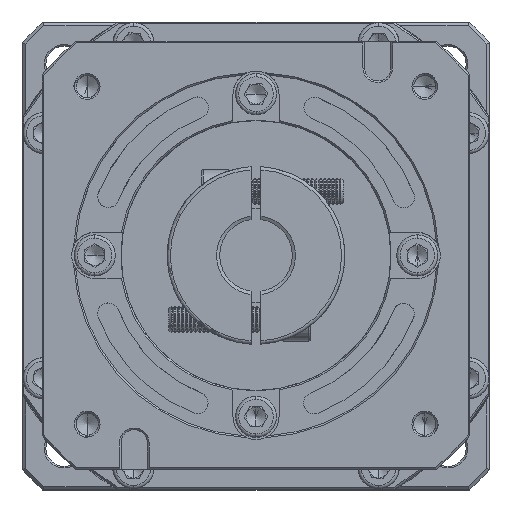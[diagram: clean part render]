
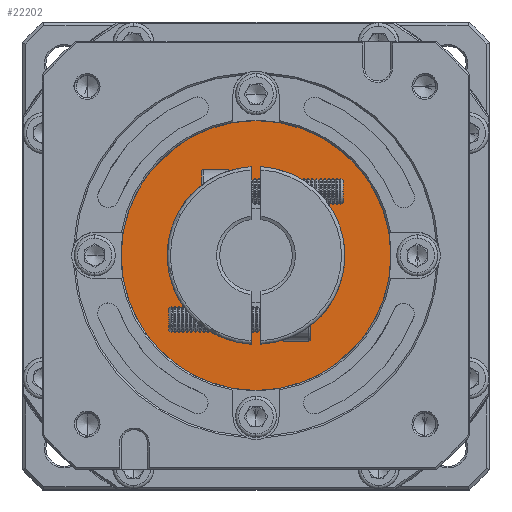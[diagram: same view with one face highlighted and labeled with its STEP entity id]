
A CAD part, top view. The second image highlights one B-rep face of the part: STEP entity #22202.
In plain terms, the highlighted planar face has unit normal (0, 0, 1).
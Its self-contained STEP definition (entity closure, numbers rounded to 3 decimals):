
#1001 = CIRCLE ( 'NONE', #155942, 41. ) ;
#2295 = CARTESIAN_POINT ( 'NONE',  ( -112.657, 72.386, -2.817 ) ) ;
#6605 = AXIS2_PLACEMENT_3D ( 'NONE', #44966, #69684, #8355 ) ;
#7394 = CARTESIAN_POINT ( 'NONE',  ( -112.657, 113.386, -2.817 ) ) ;
#8355 = DIRECTION ( 'NONE',  ( 0., -1., 0. ) ) ;
#11119 = VERTEX_POINT ( 'NONE', #84485 ) ;
#13295 = ORIENTED_EDGE ( 'NONE', *, *, #55429, .T. ) ;
#14233 = VERTEX_POINT ( 'NONE', #7394 ) ;
#21057 = DIRECTION ( 'NONE',  ( 0., 0., -1. ) ) ;
#22202 = ADVANCED_FACE ( 'NONE', ( #141897, #77974 ), #128553, .T. ) ;
#22809 = ORIENTED_EDGE ( 'NONE', *, *, #47545, .T. ) ;
#35128 = CARTESIAN_POINT ( 'NONE',  ( -112.657, 31.386, -2.817 ) ) ;
#41163 = EDGE_CURVE ( 'NONE', #57744, #14233, #97320, .T. ) ;
#44966 = CARTESIAN_POINT ( 'NONE',  ( -112.657, 72.386, -2.817 ) ) ;
#47545 = EDGE_CURVE ( 'NONE', #112017, #11119, #129849, .T. ) ;
#55429 = EDGE_CURVE ( 'NONE', #14233, #57744, #1001, .T. ) ;
#56957 = ORIENTED_EDGE ( 'NONE', *, *, #41163, .T. ) ;
#57744 = VERTEX_POINT ( 'NONE', #35128 ) ;
#58255 = DIRECTION ( 'NONE',  ( 0., -1., 0. ) ) ;
#66355 = DIRECTION ( 'NONE',  ( 0., -1., 0. ) ) ;
#69553 = EDGE_LOOP ( 'NONE', ( #22809, #72346 ) ) ;
#69684 = DIRECTION ( 'NONE',  ( 0., 0., 1. ) ) ;
#72346 = ORIENTED_EDGE ( 'NONE', *, *, #81988, .T. ) ;
#73075 = AXIS2_PLACEMENT_3D ( 'NONE', #153936, #21057, #58255 ) ;
#77974 = FACE_BOUND ( 'NONE', #69553, .T. ) ;
#80475 = CARTESIAN_POINT ( 'NONE',  ( -112.657, 72.386, -2.817 ) ) ;
#81988 = EDGE_CURVE ( 'NONE', #11119, #112017, #142332, .T. ) ;
#84485 = CARTESIAN_POINT ( 'NONE',  ( -112.657, 92.386, -2.817 ) ) ;
#90509 = CARTESIAN_POINT ( 'NONE',  ( -112.657, 72.386, -2.817 ) ) ;
#92723 = AXIS2_PLACEMENT_3D ( 'NONE', #80475, #105154, #152440 ) ;
#97320 = CIRCLE ( 'NONE', #153864, 41. ) ;
#105154 = DIRECTION ( 'NONE',  ( 0., 0., -1. ) ) ;
#109925 = DIRECTION ( 'NONE',  ( 0., 0., 1. ) ) ;
#112017 = VERTEX_POINT ( 'NONE', #140286 ) ;
#128553 = PLANE ( 'NONE',  #6605 ) ;
#129849 = CIRCLE ( 'NONE', #73075, 20. ) ;
#131424 = EDGE_LOOP ( 'NONE', ( #56957, #13295 ) ) ;
#139420 = DIRECTION ( 'NONE',  ( 0., 0., 1. ) ) ;
#140286 = CARTESIAN_POINT ( 'NONE',  ( -112.657, 52.386, -2.817 ) ) ;
#141897 = FACE_OUTER_BOUND ( 'NONE', #131424, .T. ) ;
#142332 = CIRCLE ( 'NONE', #92723, 20. ) ;
#145699 = DIRECTION ( 'NONE',  ( 0., -1., 0. ) ) ;
#152440 = DIRECTION ( 'NONE',  ( 0., -1., 0. ) ) ;
#153864 = AXIS2_PLACEMENT_3D ( 'NONE', #2295, #109925, #145699 ) ;
#153936 = CARTESIAN_POINT ( 'NONE',  ( -112.657, 72.386, -2.817 ) ) ;
#155942 = AXIS2_PLACEMENT_3D ( 'NONE', #90509, #139420, #66355 ) ;
